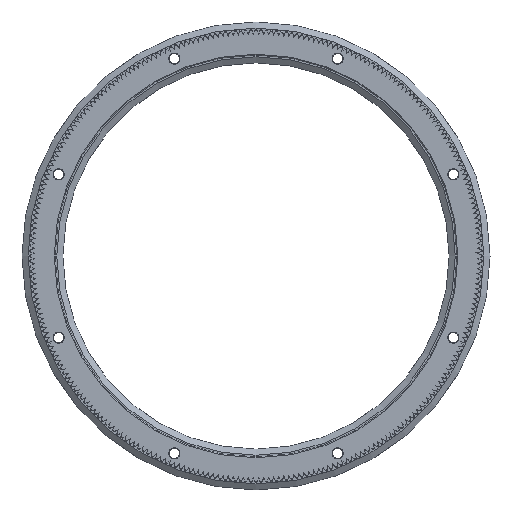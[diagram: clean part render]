
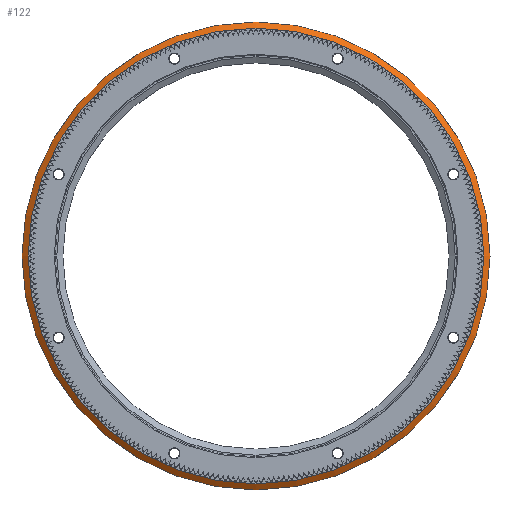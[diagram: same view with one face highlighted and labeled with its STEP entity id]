
A CAD part, front view. The second image highlights one B-rep face of the part: STEP entity #122.
In plain terms, the highlighted conical face has half-angle 55 degrees and reference radius 112.043 mm.
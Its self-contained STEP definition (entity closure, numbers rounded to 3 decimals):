
#122 = ADVANCED_FACE( '', ( #1929, #1930 ), #1931, .T. );
#1929 = FACE_OUTER_BOUND( '', #5399, .T. );
#1930 = FACE_BOUND( '', #5400, .T. );
#1931 = CONICAL_SURFACE( '', #5401, 112.043, 0.96 );
#5399 = EDGE_LOOP( '', ( #9816 ) );
#5400 = EDGE_LOOP( '', ( #9817 ) );
#5401 = AXIS2_PLACEMENT_3D( '', #9818, #9819, #9820 );
#9816 = ORIENTED_EDGE( '', *, *, #23670, .T. );
#9817 = ORIENTED_EDGE( '', *, *, #23671, .F. );
#9818 = CARTESIAN_POINT( '', ( 0., 5.8, 0. ) );
#9819 = DIRECTION( '', ( 0., 1., 0. ) );
#9820 = DIRECTION( '', ( 0., 0., 1. ) );
#23670 = EDGE_CURVE( '', #29032, #29032, #29033, .T. );
#23671 = EDGE_CURVE( '', #29034, #29034, #29035, .T. );
#29032 = VERTEX_POINT( '', #36905 );
#29033 = CIRCLE( '', #36906, 114.974 );
#29034 = VERTEX_POINT( '', #36907 );
#29035 = CIRCLE( '', #36908, 112.043 );
#36905 = CARTESIAN_POINT( '', ( 0., 7.853, -114.974 ) );
#36906 = AXIS2_PLACEMENT_3D( '', #47500, #47501, #47502 );
#36907 = CARTESIAN_POINT( '', ( 0., 5.8, -112.043 ) );
#36908 = AXIS2_PLACEMENT_3D( '', #47503, #47504, #47505 );
#47500 = CARTESIAN_POINT( '', ( 0., 7.853, 0. ) );
#47501 = DIRECTION( '', ( 0., -1., 0. ) );
#47502 = DIRECTION( '', ( 0., 0., -1. ) );
#47503 = CARTESIAN_POINT( '', ( 0., 5.8, 0. ) );
#47504 = DIRECTION( '', ( 0., -1., 0. ) );
#47505 = DIRECTION( '', ( 0., 0., -1. ) );
